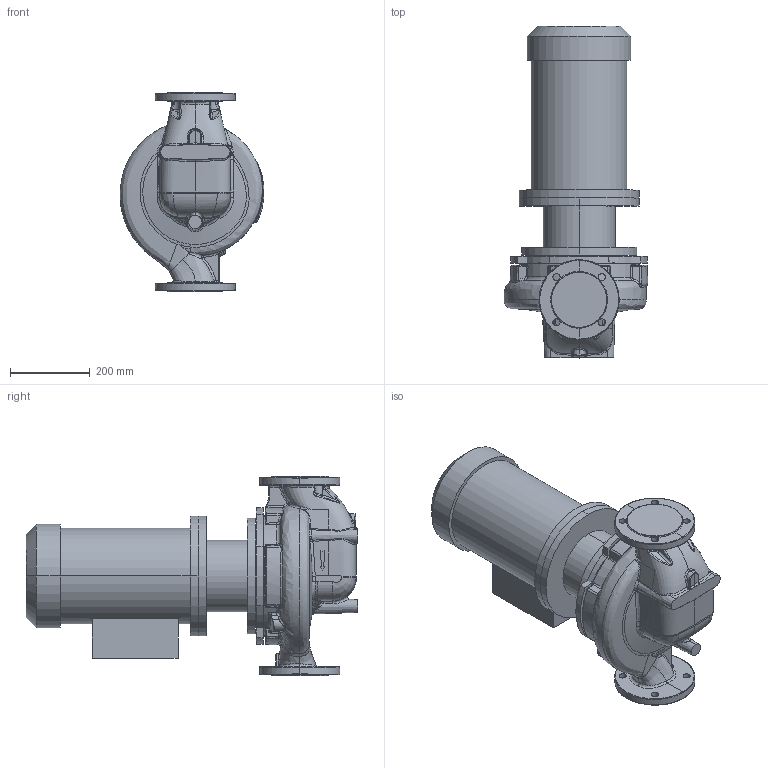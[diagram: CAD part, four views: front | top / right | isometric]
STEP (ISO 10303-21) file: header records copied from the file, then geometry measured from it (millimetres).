
FILE_DESCRIPTION (( 'STEP AP214' ), '1' );
FILE_NAME ('KRL 80-250-4-7,5.STEP', '2026-04-06T11:37:35', ( '' ), ( '' ), 'SwSTEP 2.0', 'SolidWorks 2016', '' );
FILE_SCHEMA (( 'AUTOMOTIVE_DESIGN' ));
Length unit declared in the file: millimetre
Products named in the file (1): KRL 80-250-4-7,5
Bounding box: 359.61 x 829.8 x 500 mm (x, y, z)
Volume: 47887560.5 mm3; surface area: 1677884.5 mm2
Topology: 10 solids, 10 shells, 607 faces, 1511 edges, 924 vertices
Faces by surface type: bspline 314, plane 114, cylinder 107, cone 43, torus 16, sphere 13
Entity records: 60266 total; most frequent: CARTESIAN_POINT 41924, ORIENTED_EDGE 2988, DIRECTION 1626, EDGE_CURVE 1494, VERTEX_POINT 924, B_SPLINE_CURVE_WITH_KNOTS 698, AXIS2_PLACEMENT_3D 688, EDGE_LOOP 642
